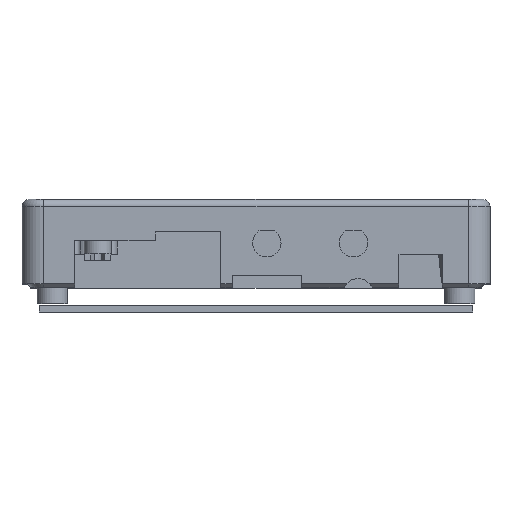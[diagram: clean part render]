
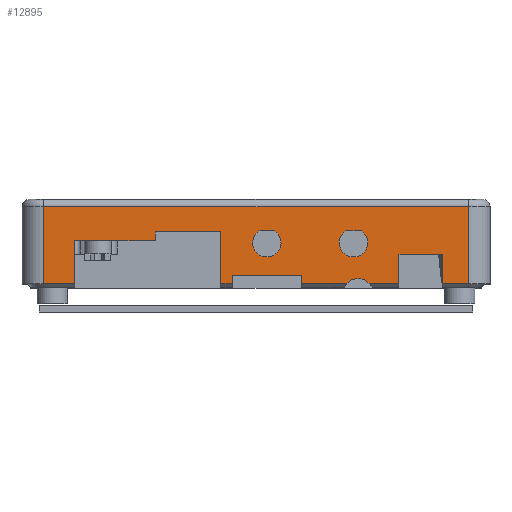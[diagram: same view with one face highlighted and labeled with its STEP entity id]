
A CAD part, top view. The second image highlights one B-rep face of the part: STEP entity #12895.
In plain terms, the highlighted planar face has unit normal (0, 0, 1).
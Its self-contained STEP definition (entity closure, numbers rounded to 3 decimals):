
#2000=CARTESIAN_POINT('',(2.5,10.,42.5));
#2001=DIRECTION('',(0.,0.,1.));
#2002=DIRECTION('',(-0.555,0.832,0.));
#2003=AXIS2_PLACEMENT_3D('',#2000,#2001,#2002);
#2005=DIRECTION('',(-1.,0.,0.));
#2006=VECTOR('',#2005,3.633);
#2007=CARTESIAN_POINT('',(4.317,12.725,42.5));
#2008=LINE('',#2007,#2006);
#2009=CARTESIAN_POINT('',(22.5,10.,42.5));
#2010=DIRECTION('',(0.,0.,1.));
#2011=DIRECTION('',(-0.555,0.832,0.));
#2012=AXIS2_PLACEMENT_3D('',#2009,#2010,#2011);
#2014=DIRECTION('',(-1.,0.,0.));
#2015=VECTOR('',#2014,3.633);
#2016=CARTESIAN_POINT('',(24.317,12.725,42.5));
#2017=LINE('',#2016,#2015);
#2018=DIRECTION('',(0.,1.,0.));
#2019=VECTOR('',#2018,6.75);
#2020=CARTESIAN_POINT('',(33.,0.5,42.5));
#2021=LINE('',#2020,#2019);
#2022=DIRECTION('',(1.,0.,0.));
#2023=VECTOR('',#2022,6.744);
#2024=CARTESIAN_POINT('',(26.256,0.5,42.5));
#2025=LINE('',#2024,#2023);
#2026=CARTESIAN_POINT('',(23.575,-1.75,42.5));
#2027=DIRECTION('',(0.,0.,1.));
#2028=DIRECTION('',(0.766,0.643,0.));
#2029=AXIS2_PLACEMENT_3D('',#2026,#2027,#2028);
#2031=DIRECTION('',(1.,0.,0.));
#2032=VECTOR('',#2031,10.394);
#2033=CARTESIAN_POINT('',(10.5,0.5,42.5));
#2034=LINE('',#2033,#2032);
#2035=DIRECTION('',(0.,1.,0.));
#2036=VECTOR('',#2035,2.);
#2037=CARTESIAN_POINT('',(10.5,0.5,42.5));
#2038=LINE('',#2037,#2036);
#2039=DIRECTION('',(-1.,0.,0.));
#2040=VECTOR('',#2039,16.);
#2041=CARTESIAN_POINT('',(10.5,2.5,42.5));
#2042=LINE('',#2041,#2040);
#2043=DIRECTION('',(0.,-1.,0.));
#2044=VECTOR('',#2043,2.);
#2045=CARTESIAN_POINT('',(-5.5,2.5,42.5));
#2046=LINE('',#2045,#2044);
#2047=DIRECTION('',(1.,0.,0.));
#2048=VECTOR('',#2047,2.6);
#2049=CARTESIAN_POINT('',(-8.1,0.5,42.5));
#2050=LINE('',#2049,#2048);
#2051=DIRECTION('',(0.,1.,0.));
#2052=VECTOR('',#2051,12.);
#2053=CARTESIAN_POINT('',(-8.1,0.5,42.5));
#2054=LINE('',#2053,#2052);
#2055=DIRECTION('',(-1.,0.,0.));
#2056=VECTOR('',#2055,15.2);
#2057=CARTESIAN_POINT('',(-8.1,12.5,42.5));
#2058=LINE('',#2057,#2056);
#2059=DIRECTION('',(0.,-1.,0.));
#2060=VECTOR('',#2059,2.);
#2061=CARTESIAN_POINT('',(-23.3,12.5,42.5));
#2062=LINE('',#2061,#2060);
#2063=DIRECTION('',(0.,-1.,0.));
#2064=VECTOR('',#2063,10.);
#2065=CARTESIAN_POINT('',(-41.785,10.5,42.5));
#2066=LINE('',#2065,#2064);
#2067=DIRECTION('',(1.,0.,0.));
#2068=VECTOR('',#2067,7.215);
#2069=CARTESIAN_POINT('',(-49.,0.5,42.5));
#2070=LINE('',#2069,#2068);
#2071=DIRECTION('',(0.,1.,0.));
#2072=VECTOR('',#2071,17.8);
#2073=CARTESIAN_POINT('',(-49.,0.5,42.5));
#2074=LINE('',#2073,#2072);
#2075=DIRECTION('',(1.,0.,0.));
#2076=VECTOR('',#2075,98.);
#2077=CARTESIAN_POINT('',(-49.,18.3,42.5));
#2078=LINE('',#2077,#2076);
#2079=DIRECTION('',(1.,0.,0.));
#2080=VECTOR('',#2079,6.);
#2081=CARTESIAN_POINT('',(43.,0.5,42.5));
#2082=LINE('',#2081,#2080);
#2083=DIRECTION('',(0.,1.,0.));
#2084=VECTOR('',#2083,6.75);
#2085=CARTESIAN_POINT('',(43.,0.5,42.5));
#2086=LINE('',#2085,#2084);
#2087=DIRECTION('',(-1.,0.,0.));
#2088=VECTOR('',#2087,10.);
#2089=CARTESIAN_POINT('',(43.,7.25,42.5));
#2090=LINE('',#2089,#2088);
#2552=DIRECTION('',(1.,0.,0.));
#2553=VECTOR('',#2552,18.485);
#2554=CARTESIAN_POINT('',(-41.785,10.5,42.5));
#2555=LINE('',#2554,#2553);
#6327=DIRECTION('',(0.,1.,0.));
#6328=VECTOR('',#6327,17.8);
#6329=CARTESIAN_POINT('',(49.,0.5,42.5));
#6330=LINE('',#6329,#6328);
#9576=CARTESIAN_POINT('',(-49.,0.5,42.5));
#9577=CARTESIAN_POINT('',(-41.785,0.5,42.5));
#9578=VERTEX_POINT('',#9576);
#9579=VERTEX_POINT('',#9577);
#9584=CARTESIAN_POINT('',(-8.1,0.5,42.5));
#9585=CARTESIAN_POINT('',(-5.5,0.5,42.5));
#9586=VERTEX_POINT('',#9584);
#9587=VERTEX_POINT('',#9585);
#9592=CARTESIAN_POINT('',(10.5,0.5,42.5));
#9593=CARTESIAN_POINT('',(20.894,0.5,42.5));
#9594=VERTEX_POINT('',#9592);
#9595=VERTEX_POINT('',#9593);
#9610=CARTESIAN_POINT('',(-49.,18.3,42.5));
#9611=VERTEX_POINT('',#9610);
#9614=CARTESIAN_POINT('',(49.,18.3,42.5));
#9615=VERTEX_POINT('',#9614);
#9660=CARTESIAN_POINT('',(49.,0.5,42.5));
#9662=VERTEX_POINT('',#9660);
#10124=CARTESIAN_POINT('',(-41.785,10.5,42.5));
#10125=VERTEX_POINT('',#10124);
#10126=CARTESIAN_POINT('',(-8.1,12.5,42.5));
#10127=VERTEX_POINT('',#10126);
#10128=CARTESIAN_POINT('',(-23.3,12.5,42.5));
#10129=VERTEX_POINT('',#10128);
#10140=CARTESIAN_POINT('',(10.5,2.5,42.5));
#10141=CARTESIAN_POINT('',(-5.5,2.5,42.5));
#10142=VERTEX_POINT('',#10140);
#10143=VERTEX_POINT('',#10141);
#10150=CARTESIAN_POINT('',(26.256,0.5,42.5));
#10151=VERTEX_POINT('',#10150);
#10157=CARTESIAN_POINT('',(-23.3,10.5,42.5));
#10159=VERTEX_POINT('',#10157);
#10990=CARTESIAN_POINT('',(0.683,12.725,42.5));
#10991=CARTESIAN_POINT('',(4.317,12.725,42.5));
#10992=VERTEX_POINT('',#10990);
#10993=VERTEX_POINT('',#10991);
#10994=CARTESIAN_POINT('',(20.683,12.725,42.5));
#10995=CARTESIAN_POINT('',(24.317,12.725,42.5));
#10996=VERTEX_POINT('',#10994);
#10997=VERTEX_POINT('',#10995);
#11174=CARTESIAN_POINT('',(33.,0.5,42.5));
#11175=CARTESIAN_POINT('',(33.,7.25,42.5));
#11176=VERTEX_POINT('',#11174);
#11177=VERTEX_POINT('',#11175);
#11178=CARTESIAN_POINT('',(43.,0.5,42.5));
#11179=CARTESIAN_POINT('',(43.,7.25,42.5));
#11180=VERTEX_POINT('',#11178);
#11181=VERTEX_POINT('',#11179);
#12842=CARTESIAN_POINT('',(-49.,-16.5,42.5));
#12843=DIRECTION('',(0.,0.,1.));
#12844=DIRECTION('',(1.,0.,0.));
#12845=AXIS2_PLACEMENT_3D('',#12842,#12843,#12844);
#12846=PLANE('',#12845);
#12848=ORIENTED_EDGE('',*,*,#12847,.F.);
#12849=ORIENTED_EDGE('',*,*,#12813,.F.);
#12851=ORIENTED_EDGE('',*,*,#12850,.T.);
#12852=ORIENTED_EDGE('',*,*,#12512,.F.);
#12854=ORIENTED_EDGE('',*,*,#12853,.T.);
#12856=ORIENTED_EDGE('',*,*,#12855,.T.);
#12858=ORIENTED_EDGE('',*,*,#12857,.T.);
#12859=ORIENTED_EDGE('',*,*,#12496,.F.);
#12861=ORIENTED_EDGE('',*,*,#12860,.T.);
#12863=ORIENTED_EDGE('',*,*,#12862,.T.);
#12865=ORIENTED_EDGE('',*,*,#12864,.T.);
#12867=ORIENTED_EDGE('',*,*,#12866,.F.);
#12869=ORIENTED_EDGE('',*,*,#12868,.T.);
#12870=ORIENTED_EDGE('',*,*,#12646,.F.);
#12872=ORIENTED_EDGE('',*,*,#12871,.T.);
#12873=ORIENTED_EDGE('',*,*,#12401,.T.);
#12875=ORIENTED_EDGE('',*,*,#12874,.F.);
#12876=ORIENTED_EDGE('',*,*,#12825,.F.);
#12878=ORIENTED_EDGE('',*,*,#12877,.T.);
#12880=ORIENTED_EDGE('',*,*,#12879,.T.);
#12881=EDGE_LOOP('',(#12848,#12849,#12851,#12852,#12854,#12856,#12858,#12859,
#12861,#12863,#12865,#12867,#12869,#12870,#12872,#12873,#12875,#12876,#12878,
#12880));
#12882=FACE_OUTER_BOUND('',#12881,.F.);
#12884=ORIENTED_EDGE('',*,*,#12883,.T.);
#12886=ORIENTED_EDGE('',*,*,#12885,.T.);
#12887=EDGE_LOOP('',(#12884,#12886));
#12888=FACE_BOUND('',#12887,.F.);
#12890=ORIENTED_EDGE('',*,*,#12889,.T.);
#12892=ORIENTED_EDGE('',*,*,#12891,.T.);
#12893=EDGE_LOOP('',(#12890,#12892));
#12894=FACE_BOUND('',#12893,.F.);
#12895=ADVANCED_FACE('',(#12882,#12888,#12894),#12846,.T.);
#2004=CIRCLE('',#2003,3.275);
#2013=CIRCLE('',#2012,3.275);
#2030=CIRCLE('',#2029,3.5);
#12401=EDGE_CURVE('',#9611,#9615,#2078,.T.);
#12496=EDGE_CURVE('',#9586,#9587,#2050,.T.);
#12512=EDGE_CURVE('',#9594,#9595,#2034,.T.);
#12646=EDGE_CURVE('',#9578,#9579,#2070,.T.);
#12813=EDGE_CURVE('',#10151,#11176,#2025,.T.);
#12825=EDGE_CURVE('',#11180,#9662,#2082,.T.);
#12847=EDGE_CURVE('',#11176,#11177,#2021,.T.);
#12850=EDGE_CURVE('',#10151,#9595,#2030,.T.);
#12853=EDGE_CURVE('',#9594,#10142,#2038,.T.);
#12855=EDGE_CURVE('',#10142,#10143,#2042,.T.);
#12857=EDGE_CURVE('',#10143,#9587,#2046,.T.);
#12860=EDGE_CURVE('',#9586,#10127,#2054,.T.);
#12862=EDGE_CURVE('',#10127,#10129,#2058,.T.);
#12864=EDGE_CURVE('',#10129,#10159,#2062,.T.);
#12866=EDGE_CURVE('',#10125,#10159,#2555,.T.);
#12868=EDGE_CURVE('',#10125,#9579,#2066,.T.);
#12871=EDGE_CURVE('',#9578,#9611,#2074,.T.);
#12874=EDGE_CURVE('',#9662,#9615,#6330,.T.);
#12877=EDGE_CURVE('',#11180,#11181,#2086,.T.);
#12879=EDGE_CURVE('',#11181,#11177,#2090,.T.);
#12883=EDGE_CURVE('',#10996,#10997,#2013,.T.);
#12885=EDGE_CURVE('',#10997,#10996,#2017,.T.);
#12889=EDGE_CURVE('',#10992,#10993,#2004,.T.);
#12891=EDGE_CURVE('',#10993,#10992,#2008,.T.);
